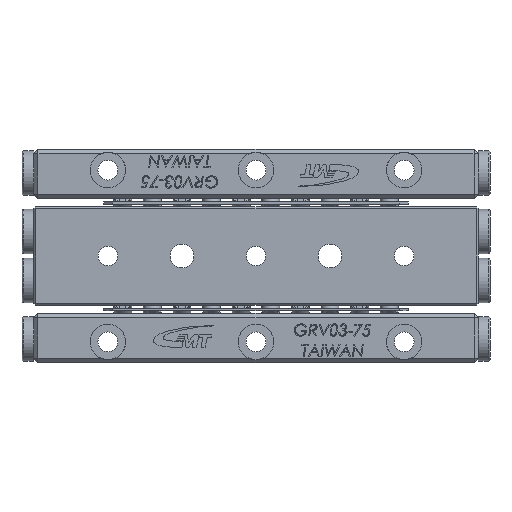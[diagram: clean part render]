
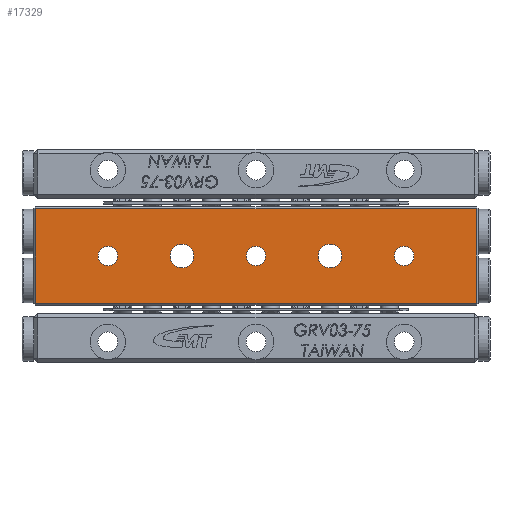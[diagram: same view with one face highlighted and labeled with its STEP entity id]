
A CAD part, front view. The second image highlights one B-rep face of the part: STEP entity #17329.
In plain terms, the highlighted planar face has unit normal (0, -1, 0).
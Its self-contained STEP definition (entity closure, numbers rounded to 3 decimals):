
#252 = CIRCLE ( 'NONE', #4504, 2. ) ;
#1023 = CARTESIAN_POINT ( 'NONE',  ( 0., 0., 0. ) ) ;
#1269 = DIRECTION ( 'NONE',  ( 0., 1., 0. ) ) ;
#1636 = VERTEX_POINT ( 'NONE', #22164 ) ;
#2036 = DIRECTION ( 'NONE',  ( 0., 1., 0. ) ) ;
#3336 = CIRCLE ( 'NONE', #14630, 1.65 ) ;
#3786 = AXIS2_PLACEMENT_3D ( 'NONE', #7070, #2036, #6400 ) ;
#4143 = AXIS2_PLACEMENT_3D ( 'NONE', #5176, #25718, #21670 ) ;
#4347 = DIRECTION ( 'NONE',  ( 0., 0., 1. ) ) ;
#4504 = AXIS2_PLACEMENT_3D ( 'NONE', #14261, #12065, #22324 ) ;
#4845 = VECTOR ( 'NONE', #5516, 1000. ) ;
#5176 = CARTESIAN_POINT ( 'NONE',  ( -37.5, 0., 8.3 ) ) ;
#5516 = DIRECTION ( 'NONE',  ( -1., 0., 0. ) ) ;
#5525 = FACE_BOUND ( 'NONE', #20692, .T. ) ;
#5900 = VERTEX_POINT ( 'NONE', #30243 ) ;
#5937 = CIRCLE ( 'NONE', #29649, 2. ) ;
#6202 = DIRECTION ( 'NONE',  ( 1., 0., 0. ) ) ;
#6400 = DIRECTION ( 'NONE',  ( 0., 0., 1. ) ) ;
#6643 = CIRCLE ( 'NONE', #17982, 1.65 ) ;
#7070 = CARTESIAN_POINT ( 'NONE',  ( 25., 0., 0. ) ) ;
#7317 = CARTESIAN_POINT ( 'NONE',  ( 25., 0., 1.65 ) ) ;
#7469 = CARTESIAN_POINT ( 'NONE',  ( 37.2, 0., 8. ) ) ;
#7490 = CARTESIAN_POINT ( 'NONE',  ( 12.5, 0., 2. ) ) ;
#7706 = FACE_BOUND ( 'NONE', #7930, .T. ) ;
#7930 = EDGE_LOOP ( 'NONE', ( #13874 ) ) ;
#8022 = LINE ( 'NONE', #25548, #4845 ) ;
#8101 = VERTEX_POINT ( 'NONE', #7469 ) ;
#8744 = CARTESIAN_POINT ( 'NONE',  ( -37.5, 0., -8. ) ) ;
#9239 = CARTESIAN_POINT ( 'NONE',  ( 37.2, 0., 8.3 ) ) ;
#9267 = ORIENTED_EDGE ( 'NONE', *, *, #17089, .T. ) ;
#9566 = DIRECTION ( 'NONE',  ( 0., 1., 0. ) ) ;
#10240 = FACE_BOUND ( 'NONE', #32955, .T. ) ;
#10549 = EDGE_CURVE ( 'NONE', #24350, #24350, #3336, .T. ) ;
#10641 = EDGE_CURVE ( 'NONE', #1636, #1636, #5937, .T. ) ;
#11155 = VECTOR ( 'NONE', #6202, 1000. ) ;
#11570 = CARTESIAN_POINT ( 'NONE',  ( 37.2, 0., -8. ) ) ;
#12065 = DIRECTION ( 'NONE',  ( 0., 1., 0. ) ) ;
#12247 = ORIENTED_EDGE ( 'NONE', *, *, #10549, .T. ) ;
#12323 = ORIENTED_EDGE ( 'NONE', *, *, #24221, .T. ) ;
#12552 = EDGE_LOOP ( 'NONE', ( #12323 ) ) ;
#13083 = CARTESIAN_POINT ( 'NONE',  ( -25., 0., 1.65 ) ) ;
#13874 = ORIENTED_EDGE ( 'NONE', *, *, #16062, .T. ) ;
#13979 = LINE ( 'NONE', #8744, #11155 ) ;
#14261 = CARTESIAN_POINT ( 'NONE',  ( 12.5, 0., 0. ) ) ;
#14550 = CARTESIAN_POINT ( 'NONE',  ( -25., 0., 0. ) ) ;
#14630 = AXIS2_PLACEMENT_3D ( 'NONE', #1023, #18865, #24235 ) ;
#14870 = VECTOR ( 'NONE', #4347, 1000. ) ;
#15241 = VERTEX_POINT ( 'NONE', #26116 ) ;
#15305 = FACE_BOUND ( 'NONE', #17762, .T. ) ;
#15457 = VECTOR ( 'NONE', #22811, 1000. ) ;
#15662 = EDGE_CURVE ( 'NONE', #18119, #18119, #252, .T. ) ;
#16062 = EDGE_CURVE ( 'NONE', #17797, #17797, #6643, .T. ) ;
#16571 = DIRECTION ( 'NONE',  ( 0., 0., 1. ) ) ;
#17089 = EDGE_CURVE ( 'NONE', #5900, #18464, #13979, .T. ) ;
#17329 = ADVANCED_FACE ( 'NONE', ( #21176, #5525, #15305, #10240, #7706, #18006 ), #28255, .F. ) ;
#17598 = LINE ( 'NONE', #27850, #15457 ) ;
#17762 = EDGE_LOOP ( 'NONE', ( #12247 ) ) ;
#17797 = VERTEX_POINT ( 'NONE', #13083 ) ;
#17926 = ORIENTED_EDGE ( 'NONE', *, *, #25396, .T. ) ;
#17982 = AXIS2_PLACEMENT_3D ( 'NONE', #14550, #1269, #16571 ) ;
#18006 = FACE_BOUND ( 'NONE', #12552, .T. ) ;
#18119 = VERTEX_POINT ( 'NONE', #7490 ) ;
#18464 = VERTEX_POINT ( 'NONE', #11570 ) ;
#18865 = DIRECTION ( 'NONE',  ( 0., 1., 0. ) ) ;
#20293 = VERTEX_POINT ( 'NONE', #7317 ) ;
#20690 = ORIENTED_EDGE ( 'NONE', *, *, #10641, .T. ) ;
#20692 = EDGE_LOOP ( 'NONE', ( #21122 ) ) ;
#21122 = ORIENTED_EDGE ( 'NONE', *, *, #15662, .T. ) ;
#21176 = FACE_OUTER_BOUND ( 'NONE', #31788, .T. ) ;
#21670 = DIRECTION ( 'NONE',  ( 0., 0., 1. ) ) ;
#22164 = CARTESIAN_POINT ( 'NONE',  ( -12.5, 0., 2. ) ) ;
#22324 = DIRECTION ( 'NONE',  ( 0., 0., 1. ) ) ;
#22811 = DIRECTION ( 'NONE',  ( 0., 0., -1. ) ) ;
#23554 = EDGE_CURVE ( 'NONE', #8101, #15241, #8022, .T. ) ;
#24221 = EDGE_CURVE ( 'NONE', #20293, #20293, #30659, .T. ) ;
#24235 = DIRECTION ( 'NONE',  ( 0., 0., 1. ) ) ;
#24350 = VERTEX_POINT ( 'NONE', #24671 ) ;
#24671 = CARTESIAN_POINT ( 'NONE',  ( 0., 0., 1.65 ) ) ;
#25396 = EDGE_CURVE ( 'NONE', #18464, #8101, #30095, .T. ) ;
#25548 = CARTESIAN_POINT ( 'NONE',  ( -37.5, 0., 8. ) ) ;
#25703 = ORIENTED_EDGE ( 'NONE', *, *, #26254, .T. ) ;
#25718 = DIRECTION ( 'NONE',  ( 0., 1., 0. ) ) ;
#26116 = CARTESIAN_POINT ( 'NONE',  ( -37.2, 0., 8. ) ) ;
#26254 = EDGE_CURVE ( 'NONE', #15241, #5900, #17598, .T. ) ;
#27850 = CARTESIAN_POINT ( 'NONE',  ( -37.2, 0., 8.3 ) ) ;
#28255 = PLANE ( 'NONE',  #4143 ) ;
#29649 = AXIS2_PLACEMENT_3D ( 'NONE', #32767, #9566, #29766 ) ;
#29766 = DIRECTION ( 'NONE',  ( 0., 0., 1. ) ) ;
#30095 = LINE ( 'NONE', #9239, #14870 ) ;
#30243 = CARTESIAN_POINT ( 'NONE',  ( -37.2, 0., -8. ) ) ;
#30659 = CIRCLE ( 'NONE', #3786, 1.65 ) ;
#31525 = ORIENTED_EDGE ( 'NONE', *, *, #23554, .T. ) ;
#31788 = EDGE_LOOP ( 'NONE', ( #25703, #9267, #17926, #31525 ) ) ;
#32767 = CARTESIAN_POINT ( 'NONE',  ( -12.5, 0., 0. ) ) ;
#32955 = EDGE_LOOP ( 'NONE', ( #20690 ) ) ;
